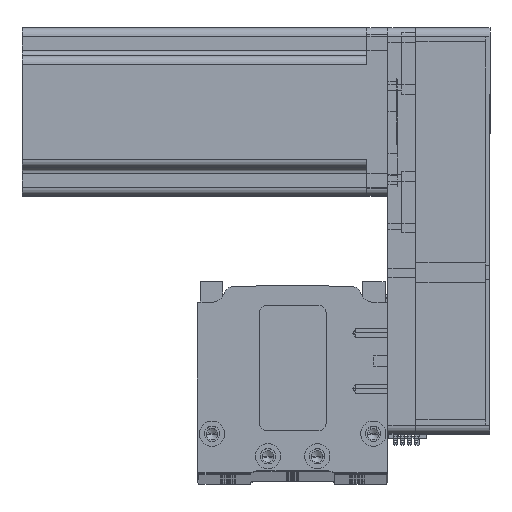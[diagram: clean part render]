
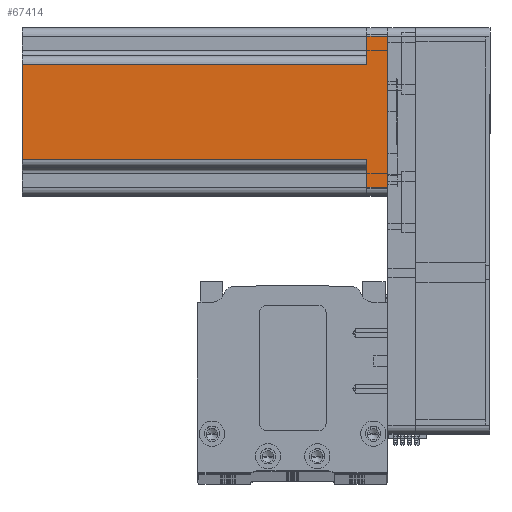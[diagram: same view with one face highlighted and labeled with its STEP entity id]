
A CAD part, top view. The second image highlights one B-rep face of the part: STEP entity #67414.
In plain terms, the highlighted planar face has unit normal (0, 0, 1) as drawn and (0, -1, 0) by its records, which use the part's own axes.
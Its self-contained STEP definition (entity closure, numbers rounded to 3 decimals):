
#269 = ORIENTED_EDGE ( 'NONE', *, *, #41162, .F. ) ;
#360 = ORIENTED_EDGE ( 'NONE', *, *, #46584, .T. ) ;
#797 = DIRECTION ( 'NONE',  ( 0., 0., -1. ) ) ;
#2771 = CARTESIAN_POINT ( 'NONE',  ( -17., -30., 7.5 ) ) ;
#3633 = VERTEX_POINT ( 'NONE', #15540 ) ;
#4873 = CARTESIAN_POINT ( 'NONE',  ( 30., -30., 130.7 ) ) ;
#5972 = VECTOR ( 'NONE', #41811, 1000. ) ;
#9741 = CARTESIAN_POINT ( 'NONE',  ( 27., -30., 130.7 ) ) ;
#10295 = DIRECTION ( 'NONE',  ( -1., 0., 0. ) ) ;
#11487 = CARTESIAN_POINT ( 'NONE',  ( 27., -30., 0. ) ) ;
#11887 = LINE ( 'NONE', #13831, #26163 ) ;
#13831 = CARTESIAN_POINT ( 'NONE',  ( 20., -30., 7.5 ) ) ;
#15321 = CARTESIAN_POINT ( 'NONE',  ( 30., -30., 0. ) ) ;
#15540 = CARTESIAN_POINT ( 'NONE',  ( 27., -30., 7.5 ) ) ;
#16908 = CARTESIAN_POINT ( 'NONE',  ( -17., -30., 130.7 ) ) ;
#19733 = CARTESIAN_POINT ( 'NONE',  ( 30., -30., 130.7 ) ) ;
#20360 = LINE ( 'NONE', #15321, #5972 ) ;
#20643 = ORIENTED_EDGE ( 'NONE', *, *, #57700, .T. ) ;
#23337 = VECTOR ( 'NONE', #797, 1000. ) ;
#23672 = VERTEX_POINT ( 'NONE', #56537 ) ;
#23839 = LINE ( 'NONE', #59887, #52069 ) ;
#24982 = LINE ( 'NONE', #16908, #23337 ) ;
#26163 = VECTOR ( 'NONE', #56146, 1000. ) ;
#28048 = DIRECTION ( 'NONE',  ( 1., 0., 0. ) ) ;
#31205 = ORIENTED_EDGE ( 'NONE', *, *, #63338, .T. ) ;
#31393 = CARTESIAN_POINT ( 'NONE',  ( -27., -30., 0. ) ) ;
#31580 = AXIS2_PLACEMENT_3D ( 'NONE', #4873, #42207, #10295 ) ;
#33110 = FACE_OUTER_BOUND ( 'NONE', #58431, .T. ) ;
#35210 = VERTEX_POINT ( 'NONE', #62227 ) ;
#41101 = EDGE_CURVE ( 'NONE', #3633, #54522, #11887, .T. ) ;
#41162 = EDGE_CURVE ( 'NONE', #43734, #35210, #63482, .T. ) ;
#41688 = LINE ( 'NONE', #53634, #68283 ) ;
#41811 = DIRECTION ( 'NONE',  ( 1., 0., 0. ) ) ;
#42034 = ORIENTED_EDGE ( 'NONE', *, *, #59140, .T. ) ;
#42207 = DIRECTION ( 'NONE',  ( 0., 1., 0. ) ) ;
#43734 = VERTEX_POINT ( 'NONE', #48358 ) ;
#45016 = ORIENTED_EDGE ( 'NONE', *, *, #41101, .T. ) ;
#45129 = LINE ( 'NONE', #67732, #55961 ) ;
#46584 = EDGE_CURVE ( 'NONE', #43734, #64761, #24982, .T. ) ;
#47004 = DIRECTION ( 'NONE',  ( 0., 0., 1. ) ) ;
#48358 = CARTESIAN_POINT ( 'NONE',  ( -17., -30., 130.7 ) ) ;
#48894 = VECTOR ( 'NONE', #47004, 1000. ) ;
#50574 = LINE ( 'NONE', #9741, #48894 ) ;
#51005 = VECTOR ( 'NONE', #67273, 1000. ) ;
#51772 = DIRECTION ( 'NONE',  ( 0., 0., 1. ) ) ;
#52069 = VECTOR ( 'NONE', #28048, 1000. ) ;
#52826 = EDGE_CURVE ( 'NONE', #23672, #64761, #23839, .T. ) ;
#53634 = CARTESIAN_POINT ( 'NONE',  ( -27., -30., 130.7 ) ) ;
#53791 = CARTESIAN_POINT ( 'NONE',  ( 17., -30., 7.5 ) ) ;
#54522 = VERTEX_POINT ( 'NONE', #53791 ) ;
#54753 = ORIENTED_EDGE ( 'NONE', *, *, #55970, .T. ) ;
#55438 = ORIENTED_EDGE ( 'NONE', *, *, #52826, .F. ) ;
#55961 = VECTOR ( 'NONE', #51772, 1000. ) ;
#55970 = EDGE_CURVE ( 'NONE', #54522, #35210, #45129, .T. ) ;
#56146 = DIRECTION ( 'NONE',  ( -1., 0., 0. ) ) ;
#56537 = CARTESIAN_POINT ( 'NONE',  ( -27., -30., 7.5 ) ) ;
#57577 = PLANE ( 'NONE',  #31580 ) ;
#57700 = EDGE_CURVE ( 'NONE', #23672, #63383, #41688, .T. ) ;
#58431 = EDGE_LOOP ( 'NONE', ( #269, #360, #55438, #20643, #31205, #42034, #45016, #54753 ) ) ;
#58973 = DIRECTION ( 'NONE',  ( 0., 0., -1. ) ) ;
#59140 = EDGE_CURVE ( 'NONE', #68459, #3633, #50574, .T. ) ;
#59887 = CARTESIAN_POINT ( 'NONE',  ( -20., -30., 7.5 ) ) ;
#62227 = CARTESIAN_POINT ( 'NONE',  ( 17., -30., 130.7 ) ) ;
#63338 = EDGE_CURVE ( 'NONE', #63383, #68459, #20360, .T. ) ;
#63383 = VERTEX_POINT ( 'NONE', #31393 ) ;
#63482 = LINE ( 'NONE', #19733, #51005 ) ;
#64761 = VERTEX_POINT ( 'NONE', #2771 ) ;
#67273 = DIRECTION ( 'NONE',  ( 1., 0., 0. ) ) ;
#67414 = ADVANCED_FACE ( 'NONE', ( #33110 ), #57577, .F. ) ;
#67732 = CARTESIAN_POINT ( 'NONE',  ( 17., -30., 130.7 ) ) ;
#68283 = VECTOR ( 'NONE', #58973, 1000. ) ;
#68459 = VERTEX_POINT ( 'NONE', #11487 ) ;
